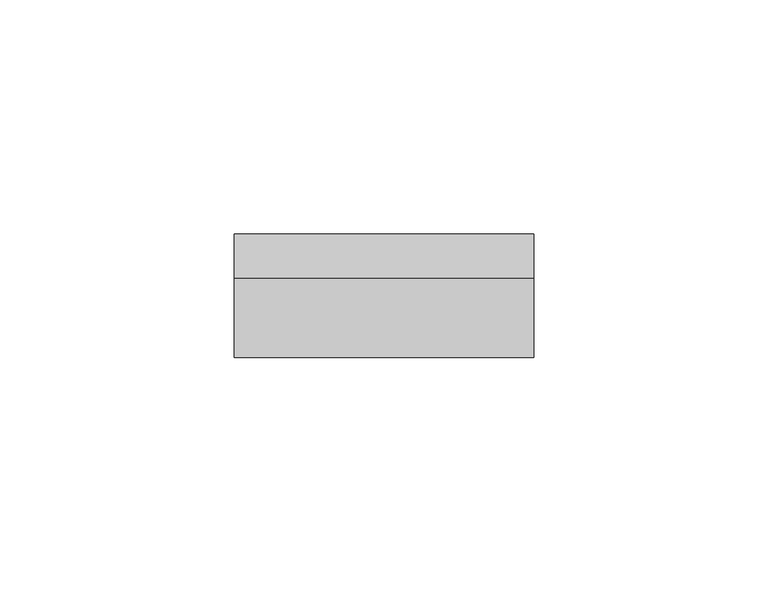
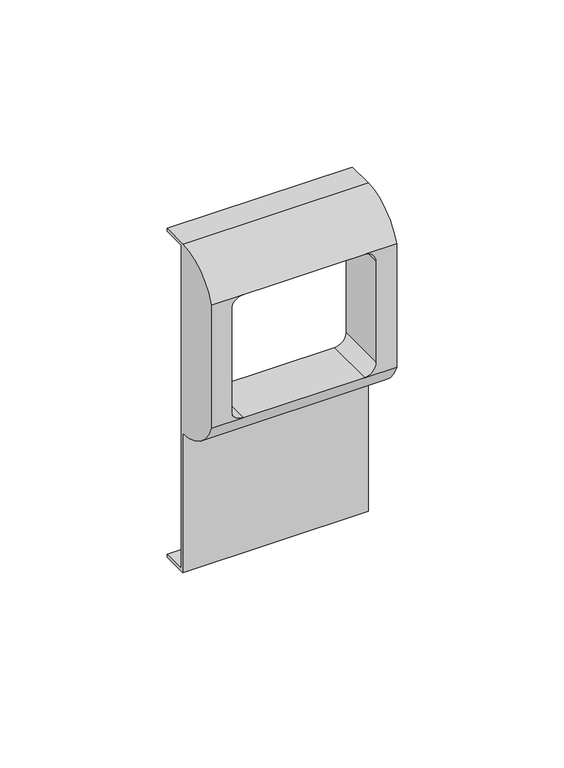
"""IFC4 building model written with IfcOpenShell, lengths in millimetres: proxy geometry, КНС_РамкаСуппорт_ILC_DKC : 45х45."""

from ifc_helpers import new_model, si_unit, frame, origin, place, context, project, spatial, polyline, circle_curve, source, transform, mapped, element, save
from ifc_brep_helpers import plane_surface, cylinder_surface, revolved_surface, advanced_brep


def electrical_fixtures_b42f28bd(model_context):
    return source(origin(), model_context, "Body", "AdvancedBrep", [
        advanced_brep(
        [(32.0, 8.4, 59.0), (32.0, 8.4, 60.0), (32.0, -1.0, 60.0), (32.0, -18.0, 48.0), (32.0, -18.0, 3.0), (32.0, -1.0, -9.0), (32.0, -1.0, -60.0), (32.0, 8.4, -60.0), (32.0, 8.4, -59.0), (32.0, 0.0, -59.0), (32.0, 0.0, 59.0), (-32.0, 8.4, 59.0), (-32.0, 0.0, 59.0), (-32.0, 0.0, -59.0), (-32.0, 8.4, -59.0), (-32.0, 8.4, -60.0), (-32.0, -1.0, -60.0), (-32.0, -1.0, -9.0), (-32.0, -18.0, 3.0), (-32.0, -18.0, 48.0), (-32.0, -1.0, 60.0), (-32.0, 8.4, 60.0), (20.9686648, -18.0, 48.0), (25.0, -18.0, 43.9686648), (25.0, -18.0, 7.0313352), (20.9686648, -18.0, 3.0), (-20.9686648, -18.0, 3.0), (-25.0, -18.0, 7.0313352), (-25.0, -18.0, 43.9686648), (-20.9686648, -18.0, 48.0), (20.9686648, 0.0, 48.0), (-20.9686648, 0.0, 48.0), (-25.0, 0.0, 43.9686648), (-25.0, 0.0, 7.0313352), (-20.9686648, 0.0, 3.0), (20.9686648, 0.0, 3.0), (25.0, 0.0, 7.0313352), (25.0, 0.0, 43.9686648)],
        [
            (0, 1),
            (1, 2),
            (2, 3, circle_curve(frame((32.0, -1.0, 41.9583333), z_axis=(1.0, 0.0, 0.0), x_axis=(0.0, 1.0, 0.0)), 18.0416667)),
            (3, 4),
            (4, 5, circle_curve(frame((32.0, -1.0, 9.0416667), z_axis=(1.0, 0.0, 0.0), x_axis=(0.0, 1.0, 0.0)), 18.0416667)),
            (5, 6),
            (6, 7),
            (7, 8),
            (8, 9),
            (9, 10),
            (10, 0),
            (11, 12),
            (12, 13),
            (13, 14),
            (14, 15),
            (15, 16),
            (16, 17),
            (17, 18, circle_curve(frame((-32.0, -1.0, 9.0416667), z_axis=(-1.0, 0.0, 0.0), x_axis=(0.0, 1.0, 0.0)), 18.0416667)),
            (18, 19),
            (19, 20, circle_curve(frame((-32.0, -1.0, 41.9583333), z_axis=(-1.0, 0.0, 0.0), x_axis=(0.0, 1.0, 0.0)), 18.0416667)),
            (20, 21),
            (21, 11),
            (0, 11),
            (21, 1),
            (20, 2),
            (3, 22),
            (22, 23, circle_curve(frame((20.9686648, -18.0, 43.9686648), z_axis=(0.0, 1.0, 0.0), x_axis=(1.0, 0.0, 0.0)), 4.0313352)),
            (23, 24),
            (24, 25, circle_curve(frame((20.9686648, -18.0, 7.0313352), z_axis=(0.0, 1.0, 0.0), x_axis=(1.0, 0.0, 0.0)), 4.0313352)),
            (25, 4),
            (18, 26),
            (26, 27, circle_curve(frame((-20.9686648, -18.0, 7.0313352), z_axis=(0.0, 1.0, 0.0), x_axis=(1.0, 0.0, 0.0)), 4.0313352)),
            (27, 28),
            (28, 29, circle_curve(frame((-20.9686648, -18.0, 43.9686648), z_axis=(0.0, 1.0, 0.0), x_axis=(1.0, 0.0, 0.0)), 4.0313352)),
            (29, 19),
            (5, 17),
            (16, 6),
            (15, 7),
            (14, 8),
            (13, 9),
            (12, 10),
            (30, 31),
            (31, 32, circle_curve(frame((-20.9686648, 0.0, 43.9686648), z_axis=(0.0, -1.0, 0.0), x_axis=(1.0, 0.0, 0.0)), 4.0313352)),
            (32, 33),
            (33, 34, circle_curve(frame((-20.9686648, 0.0, 7.0313352), z_axis=(0.0, -1.0, 0.0), x_axis=(1.0, 0.0, 0.0)), 4.0313352)),
            (34, 35),
            (35, 36, circle_curve(frame((20.9686648, 0.0, 7.0313352), z_axis=(0.0, -1.0, 0.0), x_axis=(1.0, 0.0, 0.0)), 4.0313352)),
            (36, 37),
            (37, 30, circle_curve(frame((20.9686648, 0.0, 43.9686648), z_axis=(0.0, -1.0, 0.0), x_axis=(1.0, 0.0, 0.0)), 4.0313352)),
            (29, 22),
            (25, 26),
            (29, 31),
            (30, 22),
            (28, 32),
            (27, 33),
            (26, 34),
            (25, 35),
            (24, 36),
            (23, 37),
        ],
        [
            plane_surface(frame((32.0, 8.4, 60.0), z_axis=(1.0, 0.0, 0.0), x_axis=(0.0, 0.0, 1.0))),
            plane_surface(frame((-32.0, 8.4, 60.0), z_axis=(-1.0, 0.0, 0.0), x_axis=(0.0, 0.0, -1.0))),
            plane_surface(frame((32.0, 8.4, 59.0), z_axis=(0.0, 1.0, 0.0), x_axis=(-1.0, 0.0, 0.0))),
            plane_surface(frame((32.0, 8.4, 60.0), z_axis=(0.0, 0.0, 1.0), x_axis=(-1.0, 0.0, 0.0))),
            plane_surface(frame((32.0, -18.0, 48.0), z_axis=(0.0, -1.0, 0.0), x_axis=(-1.0, 0.0, 0.0))),
            plane_surface(frame((32.0, -1.0, -9.0), z_axis=(0.0, -1.0, 0.0), x_axis=(-1.0, 0.0, 0.0))),
            plane_surface(frame((32.0, -1.0, -60.0), z_axis=(0.0, 0.0, -1.0), x_axis=(-1.0, 0.0, 0.0))),
            plane_surface(frame((32.0, 8.4, -60.0), z_axis=(0.0, 1.0, 0.0), x_axis=(-1.0, 0.0, 0.0))),
            plane_surface(frame((32.0, 8.4, -59.0), z_axis=(0.0, 0.0, 1.0), x_axis=(-1.0, 0.0, 0.0))),
            plane_surface(frame((32.0, 0.0, -59.0), z_axis=(0.0, 1.0, 0.0), x_axis=(-1.0, 0.0, 0.0))),
            plane_surface(frame((32.0, 0.0, 59.0), z_axis=(0.0, 0.0, -1.0), x_axis=(-1.0, 0.0, 0.0))),
            cylinder_surface(frame((-32.0, -1.0, 41.9583333), z_axis=(1.0, 0.0, 0.0), x_axis=(0.0, 1.0, 0.0)), 18.0416667),
            cylinder_surface(frame((-32.0, -1.0, 9.0416667), z_axis=(1.0, 0.0, 0.0), x_axis=(0.0, 1.0, 0.0)), 18.0416667),
            plane_surface(frame((20.9686648, -18.0, 48.0), z_axis=(0.0, 0.0, -1.0), x_axis=(0.0, 1.0, 0.0))),
            revolved_surface(polyline([(-16.937329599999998, -18.0, 43.9686648), (-16.937329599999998, 0.0, 43.9686648)]), (-20.9686648, 0.0, 43.9686648), (0.0, -1.0, 0.0)),
            plane_surface(frame((-25.0, -18.0, 43.9686648), z_axis=(1.0, 0.0, 0.0), x_axis=(0.0, 1.0, 0.0))),
            revolved_surface(polyline([(-16.937329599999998, -18.0, 7.0313352), (-16.937329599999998, 0.0, 7.0313352)]), (-20.9686648, 0.0, 7.0313352), (0.0, -1.0, 0.0)),
            plane_surface(frame((-20.9686648, -18.0, 3.0), z_axis=(0.0, 0.0, 1.0), x_axis=(0.0, 1.0, 0.0))),
            revolved_surface(polyline([(25.0, -18.0, 7.0313352), (25.0, 0.0, 7.0313352)]), (20.9686648, 0.0, 7.0313352), (0.0, -1.0, 0.0)),
            plane_surface(frame((25.0, -18.0, 7.0313352), z_axis=(-1.0, 0.0, 0.0), x_axis=(0.0, 1.0, 0.0))),
            revolved_surface(polyline([(25.0, -18.0, 43.9686648), (25.0, 0.0, 43.9686648)]), (20.9686648, 0.0, 43.9686648), (0.0, -1.0, 0.0)),
        ],
        [
            (0, [[1, 2, 3, 4, 5, 6, 7, 8, 9, 10, 11]]),
            (1, [[12, 13, 14, 15, 16, 17, 18, 19, 20, 21, 22]]),
            (2, [[-1, 23, -22, 24]]),
            (3, [[-2, -24, -21, 25]]),
            (4, [[-4, 26, 27, 28, 29, 30]]),
            (4, [[-19, 31, 32, 33, 34, 35]]),
            (5, [[-6, 36, -17, 37]]),
            (6, [[-7, -37, -16, 38]]),
            (7, [[-8, -38, -15, 39]]),
            (8, [[-9, -39, -14, 40]]),
            (9, [[-10, -40, -13, 41], [42, 43, 44, 45, 46, 47, 48, 49]]),
            (10, [[-11, -41, -12, -23]]),
            (11, [[-3, -25, -20, -35, 50, -26]]),
            (12, [[-5, -30, 51, -31, -18, -36]]),
            (13, [[52, -42, 53, -50]]),
            (14, [[-52, -34, 54, -43]]),
            (15, [[-54, -33, 55, -44]]),
            (16, [[-55, -32, 56, -45]]),
            (17, [[-56, -51, 57, -46]]),
            (18, [[-57, -29, 58, -47]]),
            (19, [[-58, -28, 59, -48]]),
            (20, [[-53, -49, -59, -27]]),
        ],
    ),
    ])


if __name__ == "__main__":
    model = new_model("IFC4")
    model_context = context("Model", 3, world=origin())
    ifc_project = project(units=[si_unit("LENGTHUNIT", "METRE", prefix="MILLI")], contexts=[model_context])
    site = spatial("IfcSite", under=ifc_project)
    building = spatial("IfcBuilding", under=site)
    placement = place(None, origin())
    electrical_fixtures_shape = electrical_fixtures_b42f28bd(model_context)
    element("IfcBuildingElementProxy", 1, Name="КНС_РамкаСуппорт_ILC_DKC : 45х45", ObjectType="КНС_РамкаСуппорт_ILC_DKC : 45х45", at=placement, inside=building, context=model_context, shape_type="MappedRepresentation", body=[
        mapped(electrical_fixtures_shape, transform((0.0, 0.0, 0.0), x_axis=(1.0, 0.0, 0.0), y_axis=(0.0, 1.0, 0.0), z_axis=(0.0, 0.0, 1.0))),
    ])
    save(model, "model.ifc")
